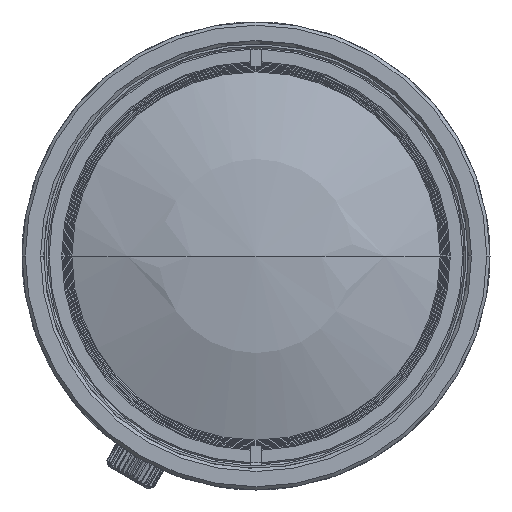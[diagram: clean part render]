
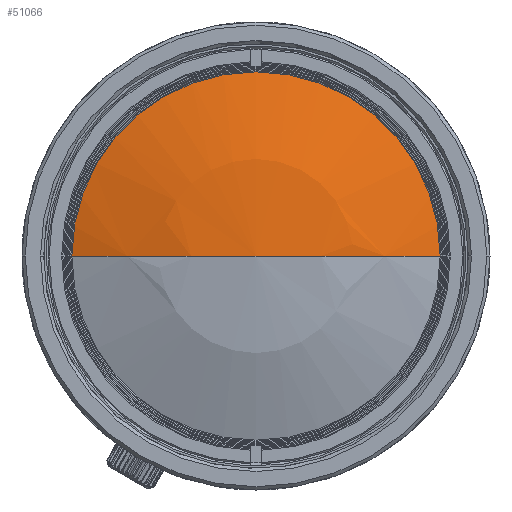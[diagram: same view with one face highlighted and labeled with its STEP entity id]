
A CAD part, left-side view. The second image highlights one B-rep face of the part: STEP entity #51066.
In plain terms, the highlighted spherical face has radius 46.133 mm.
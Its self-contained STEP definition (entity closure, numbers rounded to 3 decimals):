
#16592=CARTESIAN_POINT('',(-54.436,0.,0.));
#16593=DIRECTION('',(0.,0.,1.));
#16594=DIRECTION('',(-0.925,0.379,0.));
#16595=AXIS2_PLACEMENT_3D('',#16592,#16593,#16594);
#16597=CARTESIAN_POINT('',(-97.122,0.,0.));
#16598=DIRECTION('',(1.,0.,0.));
#16599=DIRECTION('',(0.,1.,0.));
#16600=AXIS2_PLACEMENT_3D('',#16597,#16598,#16599);
#16602=CARTESIAN_POINT('',(-54.436,0.,0.));
#16603=DIRECTION('',(0.,0.,-1.));
#16604=DIRECTION('',(-0.925,-0.379,0.));
#16605=AXIS2_PLACEMENT_3D('',#16602,#16603,#16604);
#25584=CARTESIAN_POINT('',(-97.122,17.5,0.));
#25585=CARTESIAN_POINT('',(-100.57,0.,0.));
#25586=VERTEX_POINT('',#25584);
#25587=VERTEX_POINT('',#25585);
#25588=CARTESIAN_POINT('',(-97.122,-17.5,0.));
#25589=VERTEX_POINT('',#25588);
#51054=CARTESIAN_POINT('',(-54.436,0.,0.));
#51055=DIRECTION('',(-1.,0.,0.));
#51056=DIRECTION('',(0.,1.,0.));
#51057=AXIS2_PLACEMENT_3D('',#51054,#51055,#51056);
#51058=SPHERICAL_SURFACE('',#51057,46.133);
#51060=ORIENTED_EDGE('',*,*,#51059,.F.);
#51061=ORIENTED_EDGE('',*,*,#51036,.T.);
#51063=ORIENTED_EDGE('',*,*,#51062,.T.);
#51064=EDGE_LOOP('',(#51060,#51061,#51063));
#51065=FACE_OUTER_BOUND('',#51064,.F.);
#16596=CIRCLE('',#16595,46.133);
#16601=CIRCLE('',#16600,17.5);
#16606=CIRCLE('',#16605,46.133);
#51036=EDGE_CURVE('',#25586,#25589,#16601,.T.);
#51059=EDGE_CURVE('',#25586,#25587,#16596,.T.);
#51062=EDGE_CURVE('',#25589,#25587,#16606,.T.);
#51066=ADVANCED_FACE('',(#51065),#51058,.T.);
